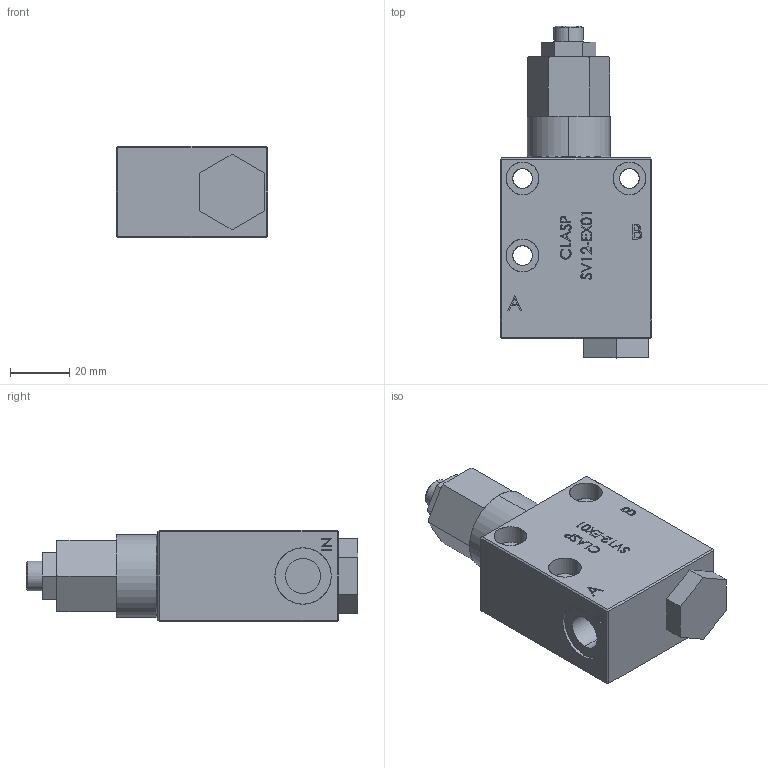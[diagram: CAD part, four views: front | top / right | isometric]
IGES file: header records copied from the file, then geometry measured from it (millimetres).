
Start section: SolidWorks IGES file using analytic representation for surfaces
Global section: file name: D:\karuppas\Clasp\sequence valve\SEQUENCE VALVE SV12-EX01.IGS; native system: SolidWorks 2017; preprocessor: SolidWorks 2017; author: pc; date: 210809.222722; units: millimetre
Bounding box: 51 x 111.9 x 30.8 mm (x, y, z)
Surface area: 20102.1 mm2 (no closed solid volume)
Topology: 0 solids, 0 shells, 341 faces, 4111 edges, 4111 vertices
Faces by surface type: bspline 307, revolution 34
